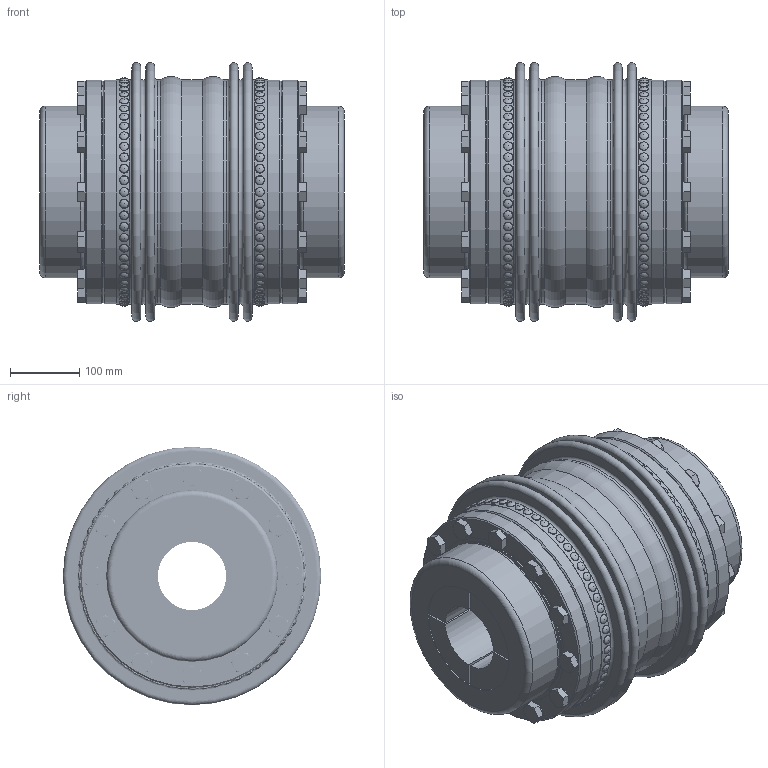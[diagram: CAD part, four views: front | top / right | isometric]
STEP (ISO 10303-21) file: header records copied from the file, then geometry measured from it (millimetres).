
FILE_DESCRIPTION(/* description */ ('Unknown'),/* implementation_level */ '2;1');
FILE_NAME(/* name */ 'KXL 18 A-A',/* time_stamp */ '2020-07-06T07:57:33+02:00',/* author */ ('Unknown'),/* organization */ ('Unknown'),/* preprocessor_version */ 'ST-DEVELOPER v16.7',/* originating_system */ 'DEX',/* authorisation */ $);
FILE_SCHEMA (('AUTOMOTIVE_DESIGN {1 0 10303 214 3 1 1}'));
Length unit declared in the file: millimetre
Products named in the file (1): KXL 18 A-A2
Bounding box: 438.19 x 372 x 372 mm (x, y, z)
Volume: 10805365.5 mm3; surface area: 1741525.8 mm2
Topology: 1 solids, 43 shells, 1808 faces, 3991 edges, 2585 vertices
Faces by surface type: plane 830, torus 538, cylinder 308, cone 132
Full cylindrical faces by diameter (mm): 6.4 x120, 13.835 x16, 14 x16, 16 x16, 17 x16, 18 x24, 19 x24, 22.5 x16, 27 x24, 98 x2, 245 x2, 247 x2, 250 x2, 258 x6, 306.5 x2, 317.7 x3, 322 x4, 322.5 x3, 322.8 x2
Entity records: 45062 total; most frequent: CARTESIAN_POINT 11093, DIRECTION 6942, ORIENTED_EDGE 5500, FACE_BOUND 3128, AXIS2_PLACEMENT_3D 3119, EDGE_LOOP 2992, EDGE_CURVE 2750, VERTEX_POINT 2214
